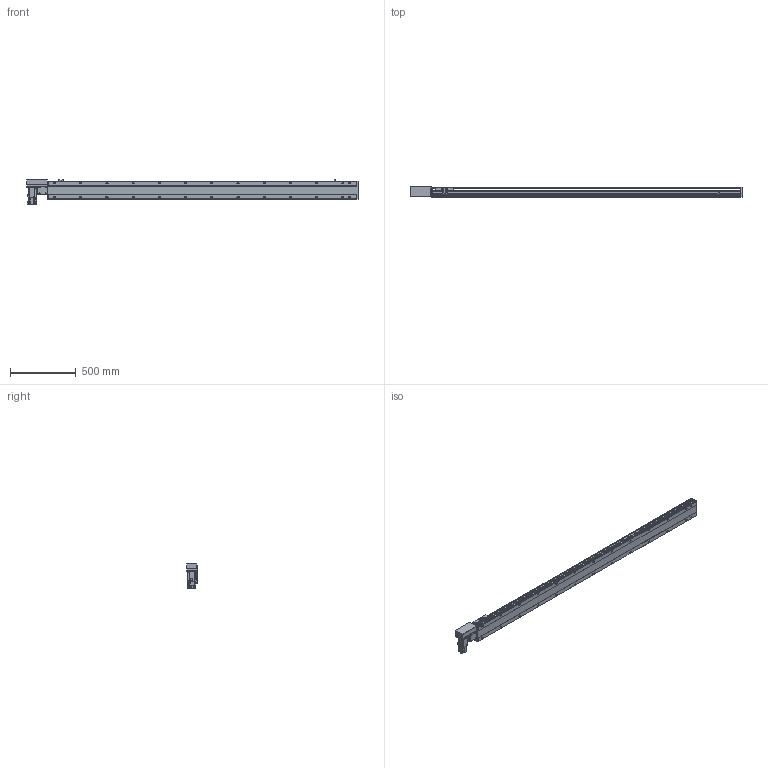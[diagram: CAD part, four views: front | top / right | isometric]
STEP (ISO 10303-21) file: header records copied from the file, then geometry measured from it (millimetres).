
FILE_DESCRIPTION( ( 'STEP AP214' ), '1' );
FILE_NAME( 'x:/temp/worker_27/temp/exporttempdir_6708_381_YVJtz/format_0/PBS140-P40-S2100-R-T40-C1-N(0).stp', '2022-06-06T01:30:44', ( 'License CC BY-ND 4.0' ), ( 'CADENAS' ), ' ', 'PARTsolutions', ' ' );
FILE_SCHEMA( ( 'AUTOMOTIVE_DESIGN { 1 0 10303 214 1 1 1 1 }' ) );
Length unit declared in the file: millimetre
Products named in the file (7): PBS140-P40-S2100-R-T40-C1-N(0); _PBS140-S2100()_body; _PBS140T-R_motors; _T40-p1; _PBS140_sliser; _PBS140_plant; _PBS140_sensor
Assembly tree (8 placements, depth 2):
  PBS140-P40-S2100-R-T40-C1-N(0)
    _PBS140-S2100()_body
    _PBS140T-R_motors
    _T40-p1
    _PBS140_sliser
    _PBS140_plant
    _PBS140_sensor  x3
Bounding box: 2533 x 80.5 x 189.7 mm (x, y, z)
Volume: 11122198.7 mm3; surface area: 1903273 mm2
Topology: 8 solids, 8 shells, 1155 faces, 3036 edges, 1983 vertices
Faces by surface type: plane 722, cylinder 371, cone 52, sphere 8, torus 2
Full cylindrical faces by diameter (mm): 3.242 x4, 4 x2, 4.134 x4, 4.4 x8, 4.5 x2, 4.8 x4, 4.917 x34, 5.5 x7, 6 x2, 7 x28, 7.5 x8, 8 x12, 8.5 x4, 10.5 x26, 14 x1, 30 x2, 50 x2
Entity records: 42499 total; most frequent: CARTESIAN_POINT 7091, DIRECTION 5547, ORIENTED_EDGE 5212, EDGE_CURVE 2606, AXIS2_PLACEMENT_3D 1957, VERTEX_POINT 1821, LINE 1633, VECTOR 1633
